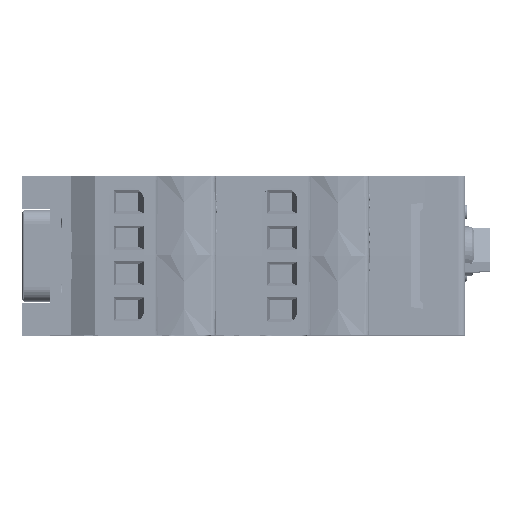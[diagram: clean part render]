
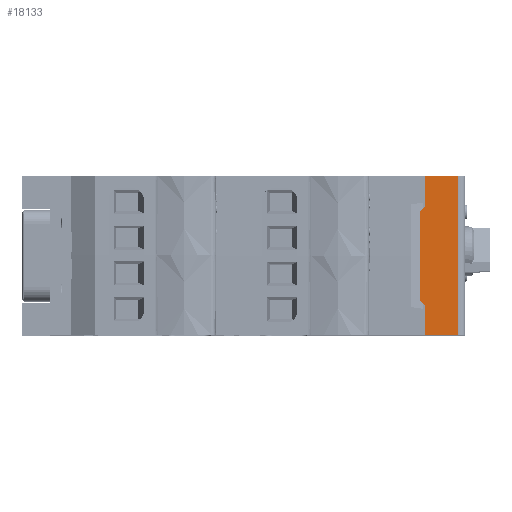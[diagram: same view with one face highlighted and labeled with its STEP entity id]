
A CAD part, top view. The second image highlights one B-rep face of the part: STEP entity #18133.
In plain terms, the highlighted planar face has unit normal (0, 0, 1) as drawn and (0, 1, 0) by its records, which use the part's own axes.
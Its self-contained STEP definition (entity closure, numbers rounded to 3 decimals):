
#18133=ADVANCED_FACE('',(#219232),#219234,.T.);
#219232=FACE_BOUND('',#219233,.T.);
#219233=EDGE_LOOP('',(#371265,#371266,#371267,#371268,#371269,#371270,#371271,#371272));
#219234=PLANE('',#219235);
#219235=AXIS2_PLACEMENT_3D('',#219236,#219237,#219238);
#219236=CARTESIAN_POINT('',(-11.25,22.6,1.5));
#219237=DIRECTION('',(0.,1.,0.));
#219238=DIRECTION('',(0.,-0.,1.));
#371265=ORIENTED_EDGE('',*,*,#521576,.F.);
#371266=ORIENTED_EDGE('',*,*,#521586,.F.);
#371267=ORIENTED_EDGE('',*,*,#521601,.T.);
#371268=ORIENTED_EDGE('',*,*,#521598,.T.);
#371269=ORIENTED_EDGE('',*,*,#521627,.T.);
#371270=ORIENTED_EDGE('',*,*,#521603,.T.);
#371271=ORIENTED_EDGE('',*,*,#521589,.T.);
#371272=ORIENTED_EDGE('',*,*,#521578,.F.);
#521576=EDGE_CURVE('',#587752,#587754,#587755,.F.);
#521578=EDGE_CURVE('',#587754,#587757,#587758,.F.);
#521586=EDGE_CURVE('',#587769,#587752,#587771,.T.);
#521589=EDGE_CURVE('',#587775,#587757,#587776,.T.);
#521598=EDGE_CURVE('',#587790,#587788,#587791,.T.);
#521601=EDGE_CURVE('',#587769,#587790,#587795,.T.);
#521603=EDGE_CURVE('',#587797,#587775,#587798,.T.);
#521627=EDGE_CURVE('',#587788,#587797,#587832,.T.);
#587752=VERTEX_POINT('',#701558);
#587754=VERTEX_POINT('',#701563);
#587755=LINE('',#701564,#701565);
#587757=VERTEX_POINT('',#701571);
#587758=LINE('',#701572,#701573);
#587769=VERTEX_POINT('',#701599);
#587771=LINE('',#701603,#701604);
#587775=VERTEX_POINT('',#701613);
#587776=LINE('',#701614,#701615);
#587788=VERTEX_POINT('',#701642);
#587790=VERTEX_POINT('',#701646);
#587791=LINE('',#701647,#701648);
#587795=LINE('',#701657,#701658);
#587797=VERTEX_POINT('',#701663);
#587798=LINE('',#701664,#701665);
#587832=LINE('',#701746,#701747);
#701558=CARTESIAN_POINT('',(-11.25,22.6,1.));
#701563=CARTESIAN_POINT('',(11.25,22.6,1.));
#701564=CARTESIAN_POINT('',(11.25,22.6,1.));
#701565=VECTOR('',#701566,1.);
#701566=DIRECTION('',(-1.,0.,0.));
#701571=CARTESIAN_POINT('',(11.25,22.6,5.75));
#701572=CARTESIAN_POINT('',(11.25,22.6,5.75));
#701573=VECTOR('',#701574,1.);
#701574=DIRECTION('',(0.,0.,-1.));
#701599=CARTESIAN_POINT('',(-11.25,22.6,5.75));
#701603=CARTESIAN_POINT('',(-11.25,22.6,5.75));
#701604=VECTOR('',#701605,1.);
#701605=DIRECTION('',(0.,0.,-1.));
#701613=CARTESIAN_POINT('',(6.95,22.6,5.75));
#701614=CARTESIAN_POINT('',(6.95,22.6,5.75));
#701615=VECTOR('',#701616,1.);
#701616=DIRECTION('',(1.,0.,0.));
#701642=CARTESIAN_POINT('',(-6.25,22.6,6.45));
#701646=CARTESIAN_POINT('',(-6.95,22.6,5.75));
#701647=CARTESIAN_POINT('',(-6.95,22.6,5.75));
#701648=VECTOR('',#701649,1.);
#701649=DIRECTION('',(0.707,0.,0.707));
#701657=CARTESIAN_POINT('',(-11.25,22.6,5.75));
#701658=VECTOR('',#701659,1.);
#701659=DIRECTION('',(1.,0.,0.));
#701663=CARTESIAN_POINT('',(6.25,22.6,6.45));
#701664=CARTESIAN_POINT('',(6.25,22.6,6.45));
#701665=VECTOR('',#701666,1.);
#701666=DIRECTION('',(0.707,0.,-0.707));
#701746=CARTESIAN_POINT('',(-6.25,22.6,6.45));
#701747=VECTOR('',#701748,1.);
#701748=DIRECTION('',(1.,0.,0.));
